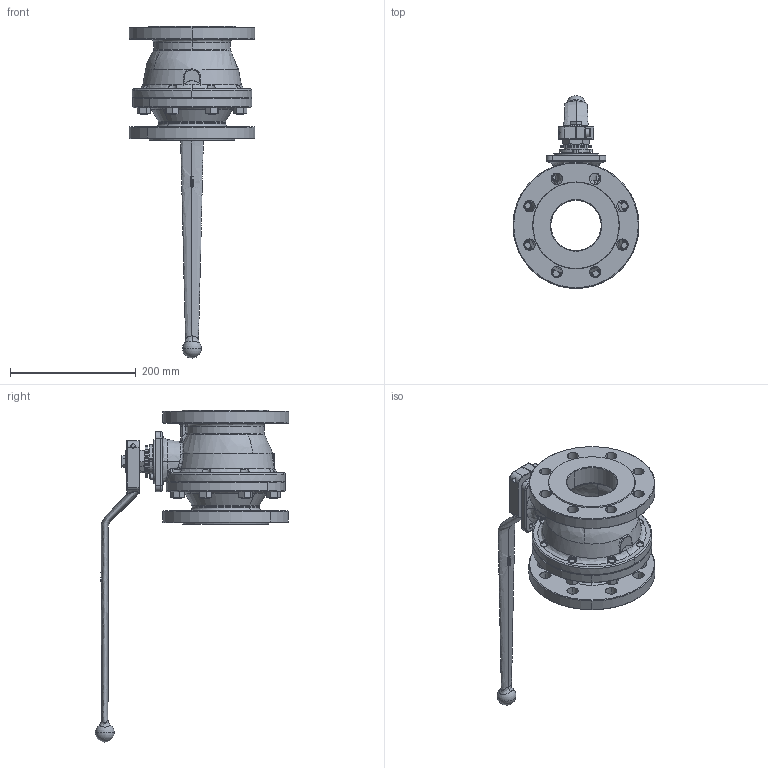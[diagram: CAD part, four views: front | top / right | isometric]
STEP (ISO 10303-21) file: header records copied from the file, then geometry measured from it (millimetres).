
FILE_DESCRIPTION (( 'STEP AP214' ), '1' );
FILE_NAME ('FIG 516 - DN80 con maneta.STEP', '2016-10-03T17:42:28', ( '' ), ( '' ), 'SwSTEP 2.0', 'SolidWorks 2016', '' );
FILE_SCHEMA (( 'AUTOMOTIVE_DESIGN' ));
Length unit declared in the file: millimetre
Products named in the file (19): DIN 6325 - Ø8x18; JT80FV (35x25x2); 200080_41; SM12411414; P80G (35x25x5)_Comprimida; EPI80Q; 5180_17; 5280_46; M080CHST_Predeterminada; 5180_10-1; ISO 4017 - M10 x 20-N_ISO 4017 - M10 x 20-N; DIN 2093 - B50; 0516080C; 0516080L; 5180_07; DIN 912 M8 x 25 --- 25C_DIN 912 M8 x 25 --- 25C; DIN 934 - M12_DIN 934 - M12; FIG 516 - DN80 con maneta; 00800930
Assembly tree (35 placements, depth 2):
  FIG 516 - DN80 con maneta
    0516080C
    0516080L
    EPI80Q
    M080CHST_Predeterminada
    5180_17
    ISO 4017 - M10 x 20-N_ISO 4017 - M10 x 20-N
    DIN 934 - M12_DIN 934 - M12  x8
    SM12411414  x8
    DIN 912 M8 x 25 --- 25C_DIN 912 M8 x 25 --- 25C
    P80G (35x25x5)_Comprimida  x2
    5180_10-1
    JT80FV (35x25x2)
    00800930
    200080_41
    DIN 2093 - B50  x2
    5280_46
    5180_07
    DIN 6325 - Ø8x18  x2
Bounding box: 200 x 306.9 x 527 mm (x, y, z)
Volume: 2477181.9 mm3; surface area: 456100.6 mm2
Topology: 35 solids, 35 shells, 1059 faces, 2568 edges, 1593 vertices
Faces by surface type: cylinder 327, plane 268, cone 245, bspline 186, torus 23, sphere 10
Entity records: 50219 total; most frequent: CARTESIAN_POINT 31676, ORIENTED_EDGE 3932, DIRECTION 3203, EDGE_CURVE 1966, AXIS2_PLACEMENT_3D 1305, VERTEX_POINT 1250, EDGE_LOOP 916, FACE_OUTER_BOUND 783
